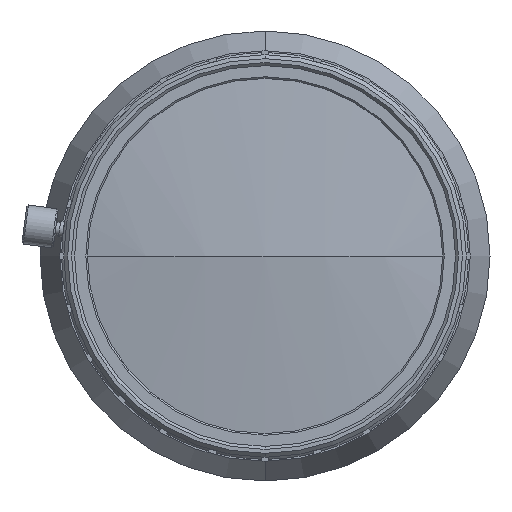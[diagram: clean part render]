
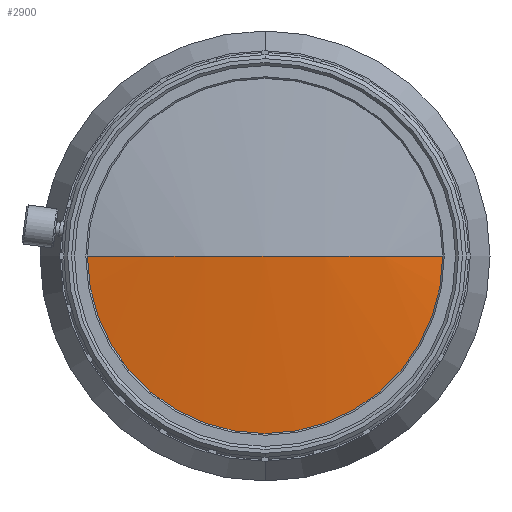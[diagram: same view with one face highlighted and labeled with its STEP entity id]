
A CAD part, left-side view. The second image highlights one B-rep face of the part: STEP entity #2900.
In plain terms, the highlighted spherical face has radius 126.5 mm.
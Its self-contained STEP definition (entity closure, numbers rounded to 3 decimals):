
#91 = VERTEX_POINT ( 'NONE', #183 ) ;
#183 = CARTESIAN_POINT ( 'NONE',  ( 4.503, 0., 0. ) ) ;
#299 = FACE_OUTER_BOUND ( 'NONE', #773, .T. ) ;
#357 = DIRECTION ( 'NONE',  ( 0., 0., -1. ) ) ;
#419 = CARTESIAN_POINT ( 'NONE',  ( 6.538, 22.6, 0. ) ) ;
#625 = VERTEX_POINT ( 'NONE', #419 ) ;
#641 = DIRECTION ( 'NONE',  ( -1., 0., 0. ) ) ;
#773 = EDGE_LOOP ( 'NONE', ( #920, #4014, #3591, #1305 ) ) ;
#775 = DIRECTION ( 'NONE',  ( 0., 1., 0. ) ) ;
#920 = ORIENTED_EDGE ( 'NONE', *, *, #2705, .T. ) ;
#943 = CARTESIAN_POINT ( 'NONE',  ( 6.538, 0., 0. ) ) ;
#1067 = EDGE_CURVE ( 'NONE', #625, #91, #3109, .T. ) ;
#1260 = AXIS2_PLACEMENT_3D ( 'NONE', #3241, #357, #3732 ) ;
#1293 = VERTEX_POINT ( 'NONE', #3236 ) ;
#1305 = ORIENTED_EDGE ( 'NONE', *, *, #3525, .T. ) ;
#1429 = DIRECTION ( 'NONE',  ( 0., 0., 1. ) ) ;
#1491 = CARTESIAN_POINT ( 'NONE',  ( 6.538, 0., -22.6 ) ) ;
#1862 = AXIS2_PLACEMENT_3D ( 'NONE', #2879, #6247, #3362 ) ;
#1912 = AXIS2_PLACEMENT_3D ( 'NONE', #2675, #2214, #775 ) ;
#2214 = DIRECTION ( 'NONE',  ( 0., 0., -1. ) ) ;
#2675 = CARTESIAN_POINT ( 'NONE',  ( 131.003, 0., 0. ) ) ;
#2705 = EDGE_CURVE ( 'NONE', #3597, #1293, #4758, .T. ) ;
#2879 = CARTESIAN_POINT ( 'NONE',  ( 131.003, 0., 0. ) ) ;
#2900 = ADVANCED_FACE ( 'NONE', ( #299 ), #3010, .T. ) ;
#3010 = SPHERICAL_SURFACE ( 'NONE', #1912, 126.5 ) ;
#3109 = CIRCLE ( 'NONE', #1862, 126.5 ) ;
#3236 = CARTESIAN_POINT ( 'NONE',  ( 6.538, -22.6, 0. ) ) ;
#3241 = CARTESIAN_POINT ( 'NONE',  ( 131.003, 0., 0. ) ) ;
#3362 = DIRECTION ( 'NONE',  ( 1., 0., 0. ) ) ;
#3510 = CARTESIAN_POINT ( 'NONE',  ( 6.538, 0., 0. ) ) ;
#3525 = EDGE_CURVE ( 'NONE', #625, #3597, #4351, .T. ) ;
#3591 = ORIENTED_EDGE ( 'NONE', *, *, #1067, .F. ) ;
#3597 = VERTEX_POINT ( 'NONE', #1491 ) ;
#3629 = AXIS2_PLACEMENT_3D ( 'NONE', #3510, #641, #3995 ) ;
#3732 = DIRECTION ( 'NONE',  ( 0., 1., 0. ) ) ;
#3995 = DIRECTION ( 'NONE',  ( 0., 0., 1. ) ) ;
#4014 = ORIENTED_EDGE ( 'NONE', *, *, #4864, .T. ) ;
#4118 = CIRCLE ( 'NONE', #1260, 126.5 ) ;
#4329 = DIRECTION ( 'NONE',  ( -1., 0., 0. ) ) ;
#4351 = CIRCLE ( 'NONE', #5531, 22.6 ) ;
#4758 = CIRCLE ( 'NONE', #3629, 22.6 ) ;
#4864 = EDGE_CURVE ( 'NONE', #1293, #91, #4118, .T. ) ;
#5531 = AXIS2_PLACEMENT_3D ( 'NONE', #943, #4329, #1429 ) ;
#6247 = DIRECTION ( 'NONE',  ( 0., 0., 1. ) ) ;
